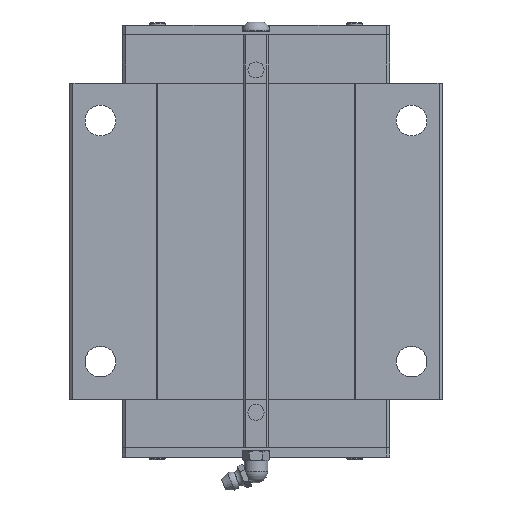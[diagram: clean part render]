
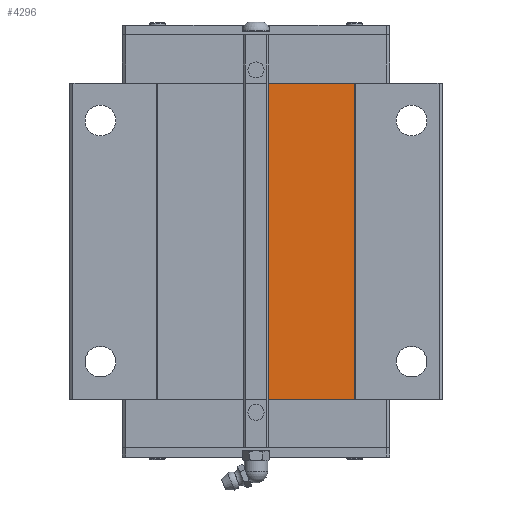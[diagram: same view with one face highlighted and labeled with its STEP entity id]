
A CAD part, top view. The second image highlights one B-rep face of the part: STEP entity #4296.
In plain terms, the highlighted planar face has unit normal (0, 0, 1).
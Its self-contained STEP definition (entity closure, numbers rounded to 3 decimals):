
#1736=VERTEX_POINT('',#4961);
#2142=EDGE_CURVE('',#2264,#1736,#5416,.T.);
#2264=VERTEX_POINT('',#5548);
#2804=EDGE_CURVE('',#3174,#2264,#6137,.T.);
#3076=EDGE_CURVE('',#3174,#4504,#6439,.T.);
#3174=VERTEX_POINT('',#6548);
#3780=EDGE_CURVE('',#1736,#4504,#7213,.T.);
#4296=ADVANCED_FACE('',(#7794),#7795,.F.);
#4504=VERTEX_POINT('',#8022);
#4961=CARTESIAN_POINT('',(44.75,26.5,89.5));
#5416=LINE('',#9234,#9235);
#5548=CARTESIAN_POINT('',(44.75,170.7,89.5));
#6137=LINE('',#10333,#10334);
#6439=LINE('',#10785,#10786);
#6548=CARTESIAN_POINT('',(5.5,170.7,89.5));
#7213=LINE('',#11958,#11959);
#7794=FACE_OUTER_BOUND('',#12818,.T.);
#7795=PLANE('',#12819);
#8022=CARTESIAN_POINT('',(5.5,26.5,89.5));
#9234=CARTESIAN_POINT('',(44.75,242.8,89.5));
#9235=VECTOR('',#14424,1.0);
#10333=CARTESIAN_POINT('',(22.375,170.7,89.5));
#10334=VECTOR('',#15140,1.0);
#10785=CARTESIAN_POINT('',(5.5,206.75,89.5));
#10786=VECTOR('',#15496,1.0);
#11958=CARTESIAN_POINT('',(22.375,26.5,89.5));
#11959=VECTOR('',#16360,1.0);
#12818=EDGE_LOOP('',(#17037,#17038,#17039,#17040));
#12819=AXIS2_PLACEMENT_3D('',#17041,#17042,#17043);
#14424=DIRECTION('',(0.0,-1.0,0.0));
#15140=DIRECTION('',(1.0,0.0,0.0));
#15496=DIRECTION('',(0.0,-1.0,0.0));
#16360=DIRECTION('',(-1.0,-0.0,-0.0));
#17037=ORIENTED_EDGE('',*,*,#3076,.T.);
#17038=ORIENTED_EDGE('',*,*,#3780,.F.);
#17039=ORIENTED_EDGE('',*,*,#2142,.F.);
#17040=ORIENTED_EDGE('',*,*,#2804,.F.);
#17041=CARTESIAN_POINT('',(44.75,242.8,89.5));
#17042=DIRECTION('',(0.0,0.0,-1.0));
#17043=DIRECTION('',(1.0,0.0,0.0));
